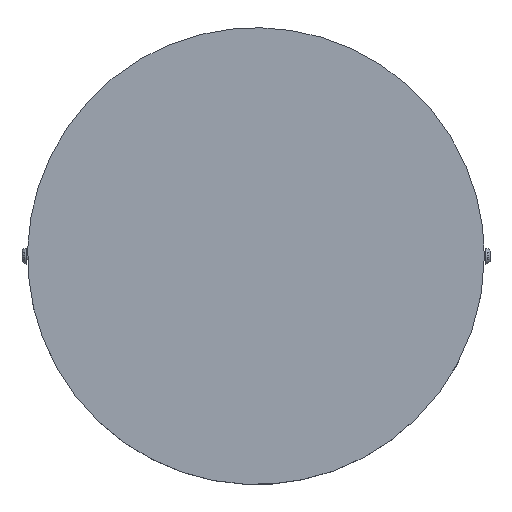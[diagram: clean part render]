
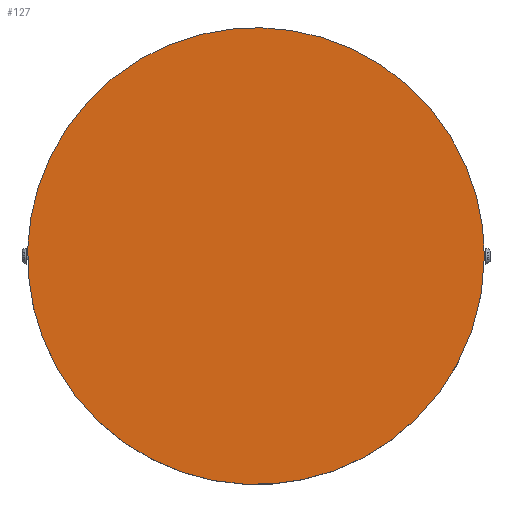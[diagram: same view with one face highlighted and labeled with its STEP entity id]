
A CAD part, top view. The second image highlights one B-rep face of the part: STEP entity #127.
In plain terms, the highlighted free-form (B-spline) face has degree [1, 1] with [2, 2] control points.
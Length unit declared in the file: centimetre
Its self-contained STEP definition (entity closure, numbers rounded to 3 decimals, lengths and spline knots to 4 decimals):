
#106 = CARTESIAN_POINT ('', (8., 0., 2.5));
#107 = VERTEX_POINT ('', #106);
#108 = CARTESIAN_POINT ('', (8., 0., 2.5));
#109 = CARTESIAN_POINT ('', (8., -8., 2.5));
#110 = CARTESIAN_POINT ('', (0., -8., 2.5));
#111 = CARTESIAN_POINT ('', (-8., -8., 2.5));
#112 = CARTESIAN_POINT ('', (-8., 0., 2.5));
#113 = CARTESIAN_POINT ('', (-8., 8., 2.5));
#114 = CARTESIAN_POINT ('', (0., 8., 2.5));
#115 = CARTESIAN_POINT ('', (8., 8., 2.5));
#116 = CARTESIAN_POINT ('', (8., 0., 2.5));
#117 = (
   BOUNDED_CURVE ()
   B_SPLINE_CURVE (2, (#108, #109, #110, #111, #112, #113, #114, #115, #116), .UNSPECIFIED., .T., .U.)
   B_SPLINE_CURVE_WITH_KNOTS ((3, 2, 2, 2, 3), (0., 0.25, 0.5, 0.75, 1.), .UNSPECIFIED.)
   CURVE ()
   GEOMETRIC_REPRESENTATION_ITEM ()
   RATIONAL_B_SPLINE_CURVE ((1., 0.707, 1., 0.707, 1., 0.707, 1., 0.707, 1.))
   REPRESENTATION_ITEM ('')
);
#118 = EDGE_CURVE ('', #107, #107, #117, .T.);
#119 = ORIENTED_EDGE ('', *, *, #118, .F.);
#120 = EDGE_LOOP ('', (#119));
#121 = FACE_OUTER_BOUND ('', #120, .T.);
#122 = CARTESIAN_POINT ('', (23.4718, 22.7594, 2.5));
#123 = CARTESIAN_POINT ('', (23.4718, -24.7581, 2.5));
#124 = CARTESIAN_POINT ('', (-24.0458, 22.7594, 2.5));
#125 = CARTESIAN_POINT ('', (-24.0458, -24.7581, 2.5));
#126 = B_SPLINE_SURFACE_WITH_KNOTS ('', 1, 1, ((#122, #123), (#124, #125)), .UNSPECIFIED., .F., .F., .U., (2, 2), (2, 2), (0., 1.), (0., 1.), .UNSPECIFIED.);
#127 = ADVANCED_FACE ('', (#121), #126, .T.);
